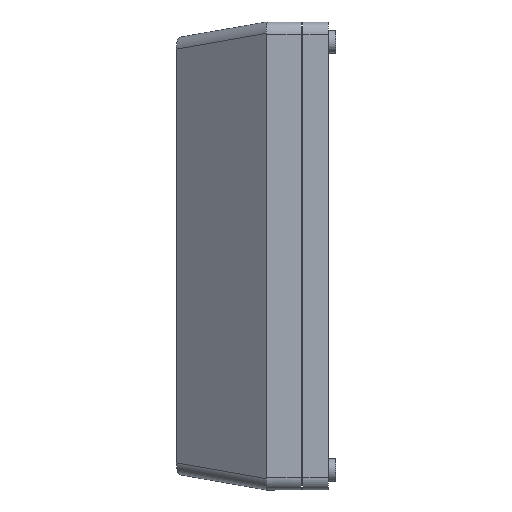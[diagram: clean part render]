
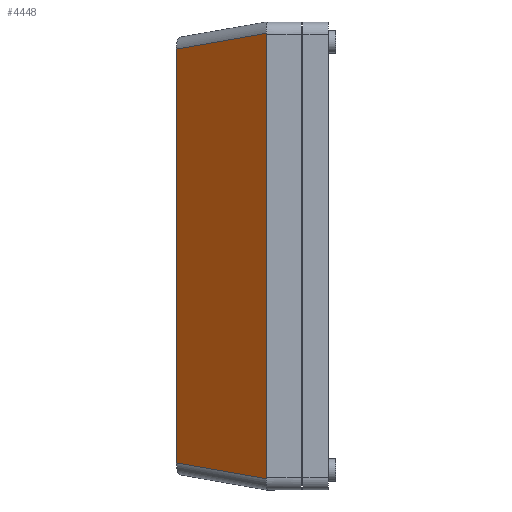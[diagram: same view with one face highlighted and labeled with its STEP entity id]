
A CAD part, left-side view. The second image highlights one B-rep face of the part: STEP entity #4448.
In plain terms, the highlighted planar face has unit normal (-0.771, 0.637, 0).
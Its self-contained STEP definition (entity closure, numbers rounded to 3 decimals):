
#554 =( BOUNDED_CURVE ( )  B_SPLINE_CURVE ( 3, ( #14009, #12592, #5542, #12750 ),
 .UNSPECIFIED., .F., .F. ) 
 B_SPLINE_CURVE_WITH_KNOTS ( ( 4, 4 ),
 ( 0., 0.096 ),
 .UNSPECIFIED. ) 
 CURVE ( )  GEOMETRIC_REPRESENTATION_ITEM ( )  RATIONAL_B_SPLINE_CURVE ( ( 1., 0.999, 0.999, 1. ) ) 
 REPRESENTATION_ITEM ( '' )  );
#765 = CARTESIAN_POINT ( 'NONE',  ( -46.35, 38.51, -177.288 ) ) ;
#1340 = DIRECTION ( 'NONE',  ( 0., 0., 1. ) ) ;
#1364 = VECTOR ( 'NONE', #8008, 1000. ) ;
#1737 =( BOUNDED_CURVE ( )  B_SPLINE_CURVE ( 3, ( #9421, #4559, #11773, #9347 ),
 .UNSPECIFIED., .F., .F. ) 
 B_SPLINE_CURVE_WITH_KNOTS ( ( 4, 4 ),
 ( 3.045, 3.142 ),
 .UNSPECIFIED. ) 
 CURVE ( )  GEOMETRIC_REPRESENTATION_ITEM ( )  RATIONAL_B_SPLINE_CURVE ( ( 1., 0.999, 0.999, 1. ) ) 
 REPRESENTATION_ITEM ( '' )  );
#1753 = DIRECTION ( 'NONE',  ( -0.771, 0.637, 0. ) ) ;
#1820 = CARTESIAN_POINT ( 'NONE',  ( -46.734, 38.045, -10.83 ) ) ;
#1847 = VERTEX_POINT ( 'NONE', #5600 ) ;
#2549 = CARTESIAN_POINT ( 'NONE',  ( -76.734, 1.767, -183.767 ) ) ;
#2699 = LINE ( 'NONE', #2549, #2913 ) ;
#2913 = VECTOR ( 'NONE', #7320, 1000. ) ;
#2953 = VECTOR ( 'NONE', #6118, 1000. ) ;
#2973 = ORIENTED_EDGE ( 'NONE', *, *, #12729, .F. ) ;
#3221 = VERTEX_POINT ( 'NONE', #10125 ) ;
#3839 = LINE ( 'NONE', #6339, #2953 ) ;
#4051 = VERTEX_POINT ( 'NONE', #765 ) ;
#4448 = ADVANCED_FACE ( 'NONE', ( #11473 ), #12491, .T. ) ;
#4559 = CARTESIAN_POINT ( 'NONE',  ( -76.342, 2.241, -183.52 ) ) ;
#4981 = CARTESIAN_POINT ( 'NONE',  ( -76.327, 2.259, -183.68 ) ) ;
#5542 = CARTESIAN_POINT ( 'NONE',  ( -76.342, 2.241, -4.68 ) ) ;
#5600 = CARTESIAN_POINT ( 'NONE',  ( -46.35, 38.51, -10.912 ) ) ;
#5913 = EDGE_CURVE ( 'NONE', #8478, #1847, #13898, .T. ) ;
#6118 = DIRECTION ( 'NONE',  ( 0., 0., 1. ) ) ;
#6339 = CARTESIAN_POINT ( 'NONE',  ( -46.35, 38.51, -188.2 ) ) ;
#6497 = ORIENTED_EDGE ( 'NONE', *, *, #8361, .T. ) ;
#6527 = DIRECTION ( 'NONE',  ( -0.637, -0.771, 0. ) ) ;
#7320 = DIRECTION ( 'NONE',  ( -0.631, -0.764, -0.135 ) ) ;
#7415 = EDGE_CURVE ( 'NONE', #3221, #8478, #554, .T. ) ;
#7816 = ORIENTED_EDGE ( 'NONE', *, *, #5913, .T. ) ;
#8008 = DIRECTION ( 'NONE',  ( 0.631, 0.764, -0.135 ) ) ;
#8361 = EDGE_CURVE ( 'NONE', #13507, #14092, #1737, .T. ) ;
#8478 = VERTEX_POINT ( 'NONE', #13178 ) ;
#8802 = CARTESIAN_POINT ( 'NONE',  ( -76.35, 2.231, -183.2 ) ) ;
#9347 = CARTESIAN_POINT ( 'NONE',  ( -76.35, 2.231, -183.2 ) ) ;
#9421 = CARTESIAN_POINT ( 'NONE',  ( -76.327, 2.259, -183.68 ) ) ;
#10125 = CARTESIAN_POINT ( 'NONE',  ( -76.35, 2.231, -5. ) ) ;
#10206 = ORIENTED_EDGE ( 'NONE', *, *, #11472, .T. ) ;
#10305 = CARTESIAN_POINT ( 'NONE',  ( -46.35, 38.51, -188.2 ) ) ;
#10643 = AXIS2_PLACEMENT_3D ( 'NONE', #10305, #1753, #6527 ) ;
#10871 = ORIENTED_EDGE ( 'NONE', *, *, #12720, .T. ) ;
#11124 = CARTESIAN_POINT ( 'NONE',  ( -76.35, 2.231, -188.2 ) ) ;
#11472 = EDGE_CURVE ( 'NONE', #4051, #13507, #2699, .T. ) ;
#11473 = FACE_OUTER_BOUND ( 'NONE', #12802, .T. ) ;
#11773 = CARTESIAN_POINT ( 'NONE',  ( -76.35, 2.231, -183.36 ) ) ;
#12085 = LINE ( 'NONE', #11124, #12465 ) ;
#12465 = VECTOR ( 'NONE', #1340, 1000. ) ;
#12491 = PLANE ( 'NONE',  #10643 ) ;
#12592 = CARTESIAN_POINT ( 'NONE',  ( -76.35, 2.231, -4.84 ) ) ;
#12720 = EDGE_CURVE ( 'NONE', #14092, #3221, #12085, .T. ) ;
#12729 = EDGE_CURVE ( 'NONE', #4051, #1847, #3839, .T. ) ;
#12750 = CARTESIAN_POINT ( 'NONE',  ( -76.327, 2.259, -4.52 ) ) ;
#12802 = EDGE_LOOP ( 'NONE', ( #10206, #6497, #10871, #14353, #7816, #2973 ) ) ;
#13178 = CARTESIAN_POINT ( 'NONE',  ( -76.327, 2.259, -4.52 ) ) ;
#13507 = VERTEX_POINT ( 'NONE', #4981 ) ;
#13898 = LINE ( 'NONE', #1820, #1364 ) ;
#14009 = CARTESIAN_POINT ( 'NONE',  ( -76.35, 2.231, -5. ) ) ;
#14092 = VERTEX_POINT ( 'NONE', #8802 ) ;
#14353 = ORIENTED_EDGE ( 'NONE', *, *, #7415, .T. ) ;
